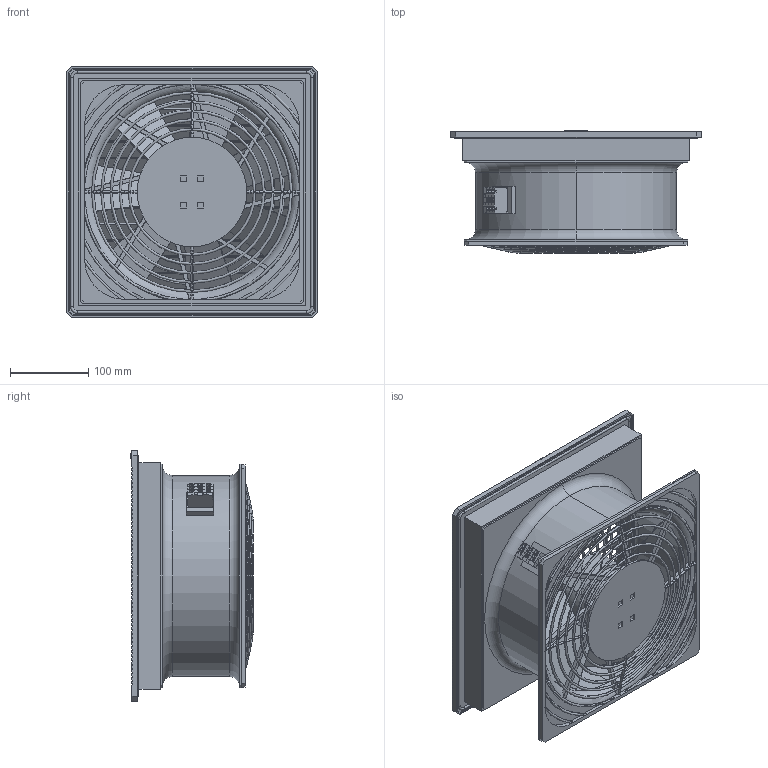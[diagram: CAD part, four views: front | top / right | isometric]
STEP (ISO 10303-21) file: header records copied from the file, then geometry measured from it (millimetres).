
FILE_DESCRIPTION (( 'STEP AP214' ), '1' );
FILE_NAME ('PF6x000.STEP', '2007-05-25T12:09:08', ( 'Pfannenberg' ), ( 'Pfannenberg Group' ), 'SwSTEP 2.0', 'SolidWorks 2007', '' );
FILE_SCHEMA (( 'AUTOMOTIVE_DESIGN' ));
Length unit declared in the file: millimetre
Products named in the file (8): Axial Lüfter Serie S2x 250_narrow_S2E 250 M2E068-CA; cover PF6x_Standard; housing PF6x_Standard; PF6x000; 30162-013_Standard; safty guard PF6x_Standard; Klemme_L_N_PE_Standard; fan flow in nozzel PF6x_Standard
Assembly tree (7 placements, depth 2):
  PF6x000
    cover PF6x_Standard
    Axial Lüfter Serie S2x 250_narrow_S2E 250 M2E068-CA
    safty guard PF6x_Standard
    fan flow in nozzel PF6x_Standard
    housing PF6x_Standard
    Klemme_L_N_PE_Standard
    30162-013_Standard
Bounding box: 320 x 155.94 x 320 mm (x, y, z)
Volume: 1570109 mm3; surface area: 998017.8 mm2
Topology: 14 solids, 14 shells, 1902 faces, 5317 edges, 3343 vertices
Faces by surface type: plane 903, cylinder 540, bspline 241, torus 212, cone 6
Entity records: 81073 total; most frequent: CARTESIAN_POINT 34471, ORIENTED_EDGE 10634, DIRECTION 7943, EDGE_CURVE 5317, VERTEX_POINT 3343, LINE 2749, VECTOR 2749, AXIS2_PLACEMENT_3D 2597
